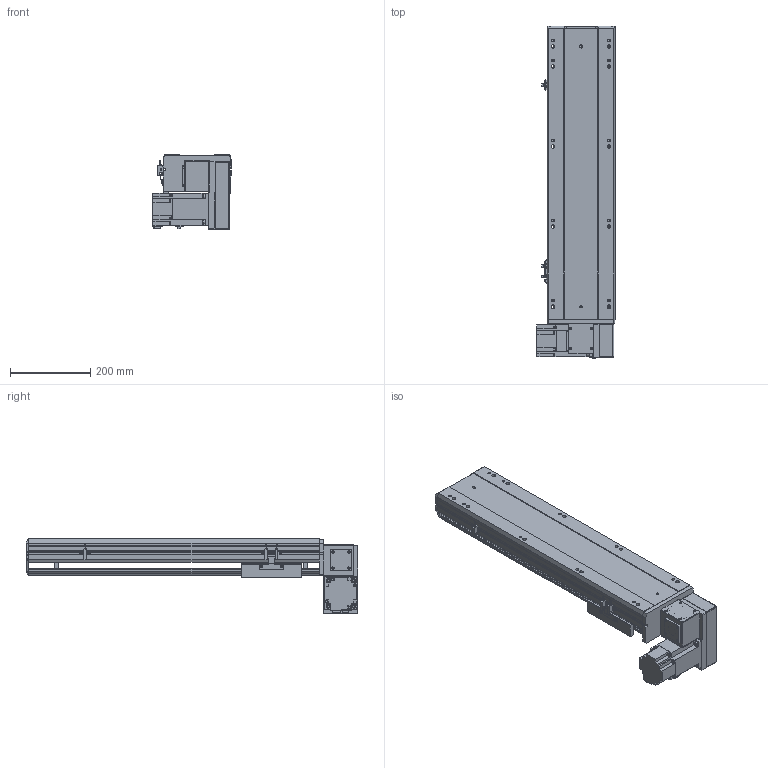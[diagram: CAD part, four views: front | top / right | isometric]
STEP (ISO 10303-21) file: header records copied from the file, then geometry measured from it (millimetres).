
FILE_DESCRIPTION (( 'STEP AP203' ), '1' );
FILE_NAME ('BTB17-L50-450-LU-T75-C4.STEP', '2022-07-26T02:08:41', ( 'CXY' ), ( 'BT' ), 'SwSTEP 2.0', 'SolidWorks 2016', '' );
FILE_SCHEMA (( 'CONFIG_CONTROL_DESIGN' ));
Length unit declared in the file: millimetre
Products named in the file (10): BTB17-L-01; BTB17-L50-450-LU-T75-C4; BTB17-L-02; BTB17-L-04; BTB17-L-菁釱_XD; BTB17-L-24; T75; BTB17-L-06; BTB17-L-HZ; BTB17-L-23
Assembly tree (12 placements, depth 2):
  BTB17-L50-450-LU-T75-C4
    BTB17-L-菁釱_XD
    BTB17-L-01
    BTB17-L-04  x3
    BTB17-L-06
    BTB17-L-23  x2
    BTB17-L-24
    BTB17-L-HZ
    BTB17-L-02
    T75
Bounding box: 195.3 x 829 x 186.5 mm (x, y, z)
Volume: 7764989.9 mm3; surface area: 1125402.4 mm2
Topology: 22 solids, 22 shells, 1552 faces, 4089 edges, 2590 vertices
Faces by surface type: plane 864, cylinder 516, cone 136, bspline 20, torus 16
Entity records: 39593 total; most frequent: CARTESIAN_POINT 7448, DIRECTION 6571, ORIENTED_EDGE 6354, EDGE_CURVE 3177, AXIS2_PLACEMENT_3D 2237, LINE 2097, VECTOR 2097, VERTEX_POINT 2058
